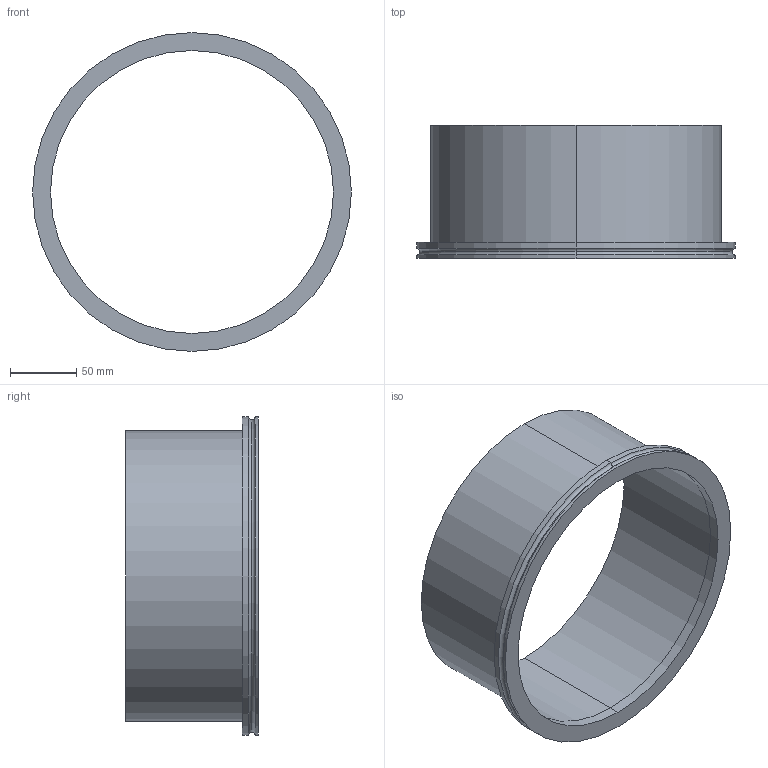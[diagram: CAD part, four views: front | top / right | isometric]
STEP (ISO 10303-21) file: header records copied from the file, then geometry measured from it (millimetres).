
FILE_DESCRIPTION (( 'STEP AP214' ), '1' );
FILE_NAME ('W4KR200.STEP', '2019-04-05T08:34:13', ( '' ), ( '' ), 'SwSTEP 2.0', 'SolidWorks 2018', '' );
FILE_SCHEMA (( 'AUTOMOTIVE_DESIGN' ));
Length unit declared in the file: millimetre
Products named in the file (1): W4KR200
Bounding box: 240 x 100 x 240 mm (x, y, z)
Volume: 274933.8 mm3; surface area: 167476.6 mm2
Topology: 2 solids, 2 shells, 24 faces, 48 edges, 30 vertices
Faces by surface type: cylinder 14, plane 6, torus 4
Entity records: 689 total; most frequent: DIRECTION 132, CARTESIAN_POINT 103, ORIENTED_EDGE 96, AXIS2_PLACEMENT_3D 59, EDGE_CURVE 48, CIRCLE 34, EDGE_LOOP 30, VERTEX_POINT 30
